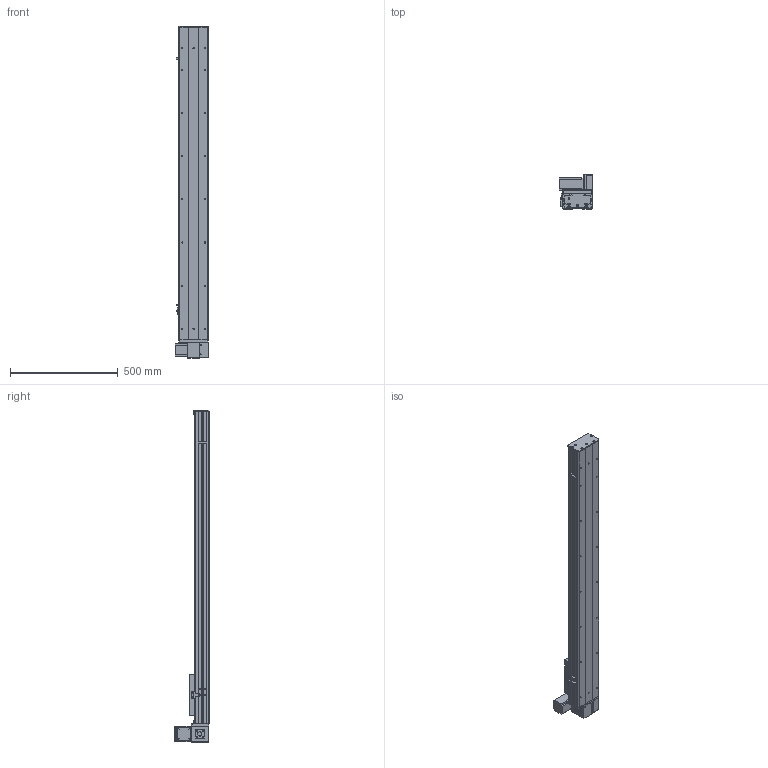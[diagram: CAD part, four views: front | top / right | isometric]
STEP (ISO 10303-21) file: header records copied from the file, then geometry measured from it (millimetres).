
FILE_DESCRIPTION (( 'STEP AP203' ), '1' );
FILE_NAME ('Y135CB-D90-S1150-UL-P400W.STEP', '2020-02-18T07:26:13', ( '微软用户' ), ( '微软中国' ), 'SwSTEP 2.0', 'SolidWorks 2017', '' );
FILE_SCHEMA (( 'CONFIG_CONTROL_DESIGN' ));
Length unit declared in the file: millimetre
Products named in the file (18): 00B-俋欶BM--; 5CB --掛极耜裔啣-; Y10B--々湍喘謫眊--666; C-詩湍揤踡え-陔; Y135CB-耜裔; Y135CB-D90-S1150-UL-P400W; 135CB--詩湍-CE; 135CB---遴掛极.-; Y100-135俋离換覜ん--; 35CB---喘謫眊楊擘啣; Y135C-陔俋离換覜結え-; 0B-埴倛裔啣; 5C--俋欶; 0B-源倛裔啣; C-雄赽釱--; 0B-萇儂楊擘啣; Y10B-耜蚾蟀諉啣----; san松下电机400不带刹车----
Assembly tree (21 placements, depth 2):
  Y135CB-D90-S1150-UL-P400W
    Y135CB-耜裔
    135CB---遴掛极.-
    35CB---喘謫眊楊擘啣
    0B-埴倛裔啣
    0B-源倛裔啣
    0B-萇儂楊擘啣
    san松下电机400不带刹车----
    5CB --掛极耜裔啣-  x2
    C-詩湍揤踡え-陔  x2
    135CB--詩湍-CE
    Y100-135俋离換覜ん--  x3
    Y135C-陔俋离換覜結え-
    5C--俋欶
    C-雄赽釱--
    Y10B-耜蚾蟀諉啣----
    00B-俋欶BM--
    Y10B--々湍喘謫眊--666
Bounding box: 157 x 158.7 x 1538 mm (x, y, z)
Volume: 4775932.4 mm3; surface area: 1872624.2 mm2
Topology: 21 solids, 21 shells, 949 faces, 2545 edges, 1686 vertices
Faces by surface type: cylinder 477, plane 456, cone 16
Entity records: 29551 total; most frequent: DIRECTION 4909, CARTESIAN_POINT 4856, ORIENTED_EDGE 4566, EDGE_CURVE 2283, AXIS2_PLACEMENT_3D 1791, VERTEX_POINT 1514, VECTOR 1327, LINE 1327
